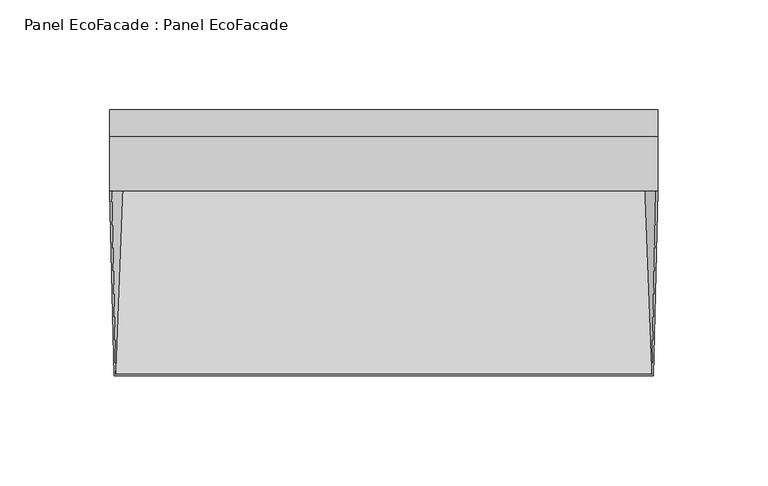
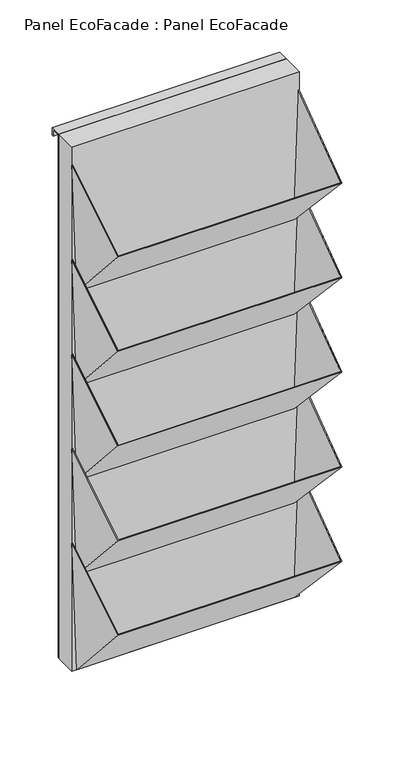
"""IFC4 building model written with IfcOpenShell, lengths in millimetres: plate geometry, Panel EcoFacade : Panel EcoFacade."""

import ifcopenshell
import ifcopenshell.guid

model = None  # the IFC model being written
_history = None  # IfcOwnerHistory: only IFC2X3 demands one
_inside = {}  # id of a spatial element -> (the spatial element, [elements in it])
_under = {}  # id of a project, library or spatial element -> (it, [spatial elements below it])
_declared = {}  # id of a project -> (the project, [libraries it declares])
_typed = {}  # id of a type object -> (the type object, [elements of that type])
_made_of = {}  # id of a material, layer set ... -> (it, [elements and type objects made of it])


def new_model(schema):
    """Start an empty IFC model of exactly this schema.

    Asked for "IFC4X3", IfcOpenShell would pick the latest addendum, in which some entities
    have other attributes; the version numbers below select the first issue.
    IFC2X3 requires an IfcOwnerHistory on every rooted entity: one is made here for all.
    """
    global model, _history
    if schema == "IFC4X3":
        model = ifcopenshell.file(schema_version=(4, 3, 0, 0))
    else:
        model = ifcopenshell.file(schema=schema)
    _inside.clear()
    _under.clear()
    _declared.clear()
    _typed.clear()
    _made_of.clear()
    _history = None
    if model.schema == "IFC2X3":
        org = make("IfcOrganization", Name="unknown")
        user = make(
            "IfcPersonAndOrganization",
            ThePerson=make("IfcPerson", FamilyName="unknown"),
            TheOrganization=org,
        )
        app = make(
            "IfcApplication",
            ApplicationDeveloper=org,
            Version="unknown",
            ApplicationFullName="unknown",
            ApplicationIdentifier="unknown",
        )
        _history = make(
            "IfcOwnerHistory",
            OwningUser=user,
            OwningApplication=app,
            ChangeAction="ADDED",
            CreationDate=0,
        )
    return model


def make(cls, **values):
    """One entity of the class cls with the attributes given. An attribute that is None is left unset."""
    return model.create_entity(
        cls, **{name: value for name, value in values.items() if value is not None}
    )


def rooted(cls, **values):
    """An entity with a GlobalId (a new one), such as an element, a storey or a relation."""
    return make(cls, GlobalId=ifcopenshell.guid.new(), OwnerHistory=_history, **values)


def si_unit(unit_type, name, prefix=None):
    """IfcSIUnit, for example si_unit("LENGTHUNIT", "METRE", prefix="MILLI")."""
    return make("IfcSIUnit", UnitType=unit_type, Prefix=prefix, Name=name)


def assignment(units):
    """IfcUnitAssignment: the units of a project."""
    return None if units is None else make("IfcUnitAssignment", Units=units)


def point(xyz):
    """IfcCartesianPoint."""
    return None if xyz is None else make("IfcCartesianPoint", Coordinates=xyz)


def direction(xyz):
    """IfcDirection."""
    return None if xyz is None else make("IfcDirection", DirectionRatios=xyz)


def frame(location, z_axis=None, x_axis=None):
    """IfcAxis2Placement3D, a coordinate frame: its origin and axes. An axis left out is left unset."""
    return make(
        "IfcAxis2Placement3D",
        Location=point(location),
        Axis=direction(z_axis),
        RefDirection=direction(x_axis),
    )


def origin():
    """The frame at (0, 0, 0) with its axes left unset."""
    return frame((0.0, 0.0, 0.0))


def origin_with_axes():
    """The frame at (0, 0, 0) with the z axis (0, 0, 1) and the x axis (1, 0, 0) written out."""
    return frame((0.0, 0.0, 0.0), z_axis=(0.0, 0.0, 1.0), x_axis=(1.0, 0.0, 0.0))


def place(relative_to, where):
    """IfcLocalPlacement: puts the frame where relative to a parent placement (None: the world)."""
    return make(
        "IfcLocalPlacement", PlacementRelTo=relative_to, RelativePlacement=where
    )


def context(
    kind, dimensions, precision=None, world=None, true_north=None, identifier=None
):
    """IfcGeometricRepresentationContext, for example the 3D "Model" context."""
    return make(
        "IfcGeometricRepresentationContext",
        ContextIdentifier=identifier,
        ContextType=kind,
        CoordinateSpaceDimension=dimensions,
        Precision=precision,
        WorldCoordinateSystem=world,
        TrueNorth=true_north,
    )


def project(units=None, contexts=None):
    """IfcProject with its units and contexts."""
    return rooted(
        "IfcProject",
        Name="project",
        RepresentationContexts=contexts,
        UnitsInContext=assignment(units),
    )


def spatial(cls, under=None, at=None, **own):
    """A site, building, storey or space (cls), placed at a placement, below another one or the project."""
    s = rooted(cls, ObjectPlacement=at, **own)
    if under is not None:
        _under.setdefault(under.id(), (under, []))[1].append(s)
    return s


def polyline(points):
    """IfcPolyline through the points."""
    return make("IfcPolyline", Points=[point(p) for p in points])


def outline(outer, holes=None, kind="AREA"):
    """IfcArbitraryClosedProfileDef: a profile drawn as a closed curve; with holes, ...WithVoids."""
    if holes is None:
        return make("IfcArbitraryClosedProfileDef", ProfileType=kind, OuterCurve=outer)
    return make(
        "IfcArbitraryProfileDefWithVoids",
        ProfileType=kind,
        OuterCurve=outer,
        InnerCurves=holes,
    )


def extrude(swept, where, along, depth):
    """IfcExtrudedAreaSolid: the profile swept, set in the frame where, extruded along a direction by depth."""
    return make(
        "IfcExtrudedAreaSolid",
        SweptArea=swept,
        Position=where,
        ExtrudedDirection=direction(along),
        Depth=depth,
    )


def faces_of(points, faces, orient=None, outer=None):
    """IfcFace entities. A face is a list of loops; a loop is a list of indices into points, from 0.

    orient and outer hold one flag for each loop. By default every Orientation is true, the
    first loop of a face is its IfcFaceOuterBound and the others are IfcFaceBound.
    """
    made = []
    for i, loops in enumerate(faces):
        bounds = []
        for j, loop in enumerate(loops):
            is_outer = j == 0 if outer is None else outer[i][j]
            bounds.append(
                make(
                    "IfcFaceOuterBound" if is_outer else "IfcFaceBound",
                    Bound=make("IfcPolyLoop", Polygon=[points[k] for k in loop]),
                    Orientation=True if orient is None else orient[i][j],
                )
            )
        made.append(make("IfcFace", Bounds=bounds))
    return made


def faceted_brep(points, faces, orient=None, outer=None, voids=None):
    """IfcFacetedBrep: a solid bounded by flat faces; with voids (closed shells), ...WithVoids."""
    shared = [point(p) for p in points]
    hull = make("IfcClosedShell", CfsFaces=faces_of(shared, faces, orient, outer))
    if voids is None:
        return make("IfcFacetedBrep", Outer=hull)
    return make(
        "IfcFacetedBrepWithVoids",
        Outer=hull,
        Voids=[
            make(cls, CfsFaces=faces_of(shared, fs, o, b)) for cls, fs, o, b in voids
        ],
    )


def shape(context_of_items, identifier, shape_type, items):
    """IfcShapeRepresentation: the items that make up one representation, for example the "Body"."""
    return make(
        "IfcShapeRepresentation",
        ContextOfItems=context_of_items,
        RepresentationIdentifier=identifier,
        RepresentationType=shape_type,
        Items=items,
    )


def source(mapping_origin, context_of_items, identifier, shape_type, items):
    """IfcRepresentationMap: a shape defined once, which mapped items show again and again."""
    return make(
        "IfcRepresentationMap",
        MappingOrigin=mapping_origin,
        MappedRepresentation=shape(context_of_items, identifier, shape_type, items),
    )


def transform(
    local_origin,
    x_axis=None,
    y_axis=None,
    z_axis=None,
    scale=None,
    scale2=None,
    scale3=None,
    uniform=True,
):
    """IfcCartesianTransformationOperator3D, or its non-uniform kind. x_axis, y_axis, z_axis: its Axis1, 2, 3."""
    if uniform:
        return make(
            "IfcCartesianTransformationOperator3D",
            Axis1=direction(x_axis),
            Axis2=direction(y_axis),
            LocalOrigin=point(local_origin),
            Scale=scale,
            Axis3=direction(z_axis),
        )
    return make(
        "IfcCartesianTransformationOperator3DnonUniform",
        Axis1=direction(x_axis),
        Axis2=direction(y_axis),
        LocalOrigin=point(local_origin),
        Scale=scale,
        Axis3=direction(z_axis),
        Scale2=scale2,
        Scale3=scale3,
    )


def mapped(mapping_source, mapping_target):
    """IfcMappedItem: shows the shape of a source again, moved by a transform."""
    return make(
        "IfcMappedItem", MappingSource=mapping_source, MappingTarget=mapping_target
    )


def made_of(thing, what):
    """Note that an element or type object is made of a material, layer set ...; save() writes the relation."""
    if what is not None:
        _made_of.setdefault(what.id(), (what, []))[1].append(thing)
    return thing


def element(
    cls,
    number,
    at=None,
    inside=None,
    cuts=None,
    type_object=None,
    material=None,
    context=None,
    identifier="Body",
    shape_type=None,
    held_by="IfcProductDefinitionShape",
    body=None,
    shapes=None,
    **own,
):
    """One element of the class cls, such as IfcWall. Its Tag is "e" and its number.

    at: its placement. inside: the storey or other place that contains it. cuts: it is an
    opening in that element (IfcRelVoidsElement). A single representation is given by context,
    identifier, shape_type and body (its items); several are given by shapes. held_by: the class
    of the entity that holds the representations. save() writes the other relations.
    """
    e = rooted(cls, Tag="e%d" % number, ObjectPlacement=at, **own)
    if body is not None:
        shapes = [shape(context, identifier, shape_type, body)]
    if shapes is not None:
        e.Representation = make(held_by, Representations=shapes)
    if inside is not None:
        _inside.setdefault(inside.id(), (inside, []))[1].append(e)
    if cuts is not None:
        rooted(
            "IfcRelVoidsElement", RelatingBuildingElement=cuts, RelatedOpeningElement=e
        )
    if type_object is not None:
        _typed.setdefault(type_object.id(), (type_object, []))[1].append(e)
    return made_of(e, material)


def aggregate(whole, parts):
    """IfcRelAggregates: a whole, such as a stair, and the parts it consists of."""
    return rooted("IfcRelAggregates", RelatingObject=whole, RelatedObjects=parts)


def save(model, path):
    """Write the relations noted so far, then the file.

    IfcRelAggregates (storeys below a building ...), IfcRelContainedInSpatialStructure (elements
    in a storey), IfcRelDefinesByType, IfcRelAssociatesMaterial and IfcRelDeclares: one each for
    every whole, place, type object, material and project.
    """
    for whole, parts in _under.values():
        aggregate(whole, parts)
    for where, things in _inside.values():
        rooted(
            "IfcRelContainedInSpatialStructure",
            RelatedElements=things,
            RelatingStructure=where,
        )
    for kind, things in _typed.values():
        rooted("IfcRelDefinesByType", RelatedObjects=things, RelatingType=kind)
    for what, things in _made_of.values():
        rooted("IfcRelAssociatesMaterial", RelatedObjects=things, RelatingMaterial=what)
    for by, libraries in _declared.values():
        rooted("IfcRelDeclares", RelatingContext=by, RelatedDefinitions=libraries)
    model.write(path)


def panel_ecofacade_panel_ecofacade_b6755e2b(model_context):
    return source(origin(), model_context, "Body", "SolidModel", [
        faceted_brep([(-124.180785, 0.0, 588.5882353), (-119.0333837, 0.0, 441.185948), (119.0333837, 0.0, 441.185948), (124.180785, 0.0, 588.5882353), (124.9812727, 0.0, 588.5882353), (119.7924572, 0.0, 440.0), (-119.7924572, 0.0, 440.0), (-124.9812727, 0.0, 588.5882353), (-123.0102218, -84.2, 532.1447224), (-122.225466, -83.5279628, 532.5952229), (123.0102218, -84.2, 532.1447224), (122.225466, -83.5279628, 532.5952229)], [[[0, 1, 2, 3, 4, 5, 6, 7]], [[6, 8, 7]], [[1, 0, 9]], [[0, 7, 8, 10, 4, 3, 11, 9]], [[5, 10, 8, 6]], [[1, 9, 11, 2]], [[4, 10, 5]], [[3, 2, 11]]]),
        faceted_brep([(-124.180785, 0.0, 478.5882353), (-119.0333837, 0.0, 331.185948), (119.0333837, 0.0, 331.185948), (124.180785, 0.0, 478.5882353), (124.9812727, 0.0, 478.5882353), (119.7924572, 0.0, 330.0), (-119.7924572, 0.0, 330.0), (-124.9812727, 0.0, 478.5882353), (-123.0102218, -84.2, 422.1447224), (-122.225466, -83.5279628, 422.5952229), (123.0102218, -84.2, 422.1447224), (122.225466, -83.5279628, 422.5952229)], [[[0, 1, 2, 3, 4, 5, 6, 7]], [[6, 8, 7]], [[1, 0, 9]], [[0, 7, 8, 10, 4, 3, 11, 9]], [[5, 10, 8, 6]], [[1, 9, 11, 2]], [[4, 10, 5]], [[3, 2, 11]]]),
        faceted_brep([(-124.180785, 0.0, 368.5882353), (-119.0333837, 0.0, 221.185948), (119.0333837, 0.0, 221.185948), (124.180785, 0.0, 368.5882353), (124.9812727, 0.0, 368.5882353), (119.7924572, 0.0, 220.0), (-119.7924572, 0.0, 220.0), (-124.9812727, 0.0, 368.5882353), (-123.0102218, -84.2, 312.1447224), (-122.225466, -83.5279628, 312.5952229), (123.0102218, -84.2, 312.1447224), (122.225466, -83.5279628, 312.5952229)], [[[0, 1, 2, 3, 4, 5, 6, 7]], [[6, 8, 7]], [[1, 0, 9]], [[0, 7, 8, 10, 4, 3, 11, 9]], [[5, 10, 8, 6]], [[1, 9, 11, 2]], [[4, 10, 5]], [[3, 2, 11]]]),
        faceted_brep([(-124.180785, 0.0, 258.5882353), (-119.0333837, 0.0, 111.185948), (119.0333837, 0.0, 111.185948), (124.180785, 0.0, 258.5882353), (124.9812727, 0.0, 258.5882353), (119.7924572, 0.0, 110.0), (-119.7924572, 0.0, 110.0), (-124.9812727, 0.0, 258.5882353), (-123.0102218, -84.2, 202.1447224), (-122.225466, -83.5279628, 202.5952229), (123.0102218, -84.2, 202.1447224), (122.225466, -83.5279628, 202.5952229)], [[[0, 1, 2, 3, 4, 5, 6, 7]], [[6, 8, 7]], [[1, 0, 9]], [[0, 7, 8, 10, 4, 3, 11, 9]], [[5, 10, 8, 6]], [[1, 9, 11, 2]], [[4, 10, 5]], [[3, 2, 11]]]),
        faceted_brep([(-124.180785, 0.0, 148.5882353), (-119.0333837, 0.0, 1.185948), (119.0333837, 0.0, 1.185948), (124.180785, 0.0, 148.5882353), (124.9812727, 0.0, 148.5882353), (119.7924572, 0.0, 0.0), (-119.7924572, 0.0, 0.0), (-124.9812727, 0.0, 148.5882353), (-123.0102218, -84.2, 92.1447224), (-122.225466, -83.5279628, 92.5952229), (123.0102218, -84.2, 92.1447224), (122.225466, -83.5279628, 92.5952229)], [[[0, 1, 2, 3, 4, 5, 6, 7]], [[6, 8, 7]], [[1, 0, 9]], [[0, 7, 8, 10, 4, 3, 11, 9]], [[5, 10, 8, 6]], [[1, 9, 11, 2]], [[4, 10, 5]], [[3, 2, 11]]]),
        extrude(outline(polyline([(26.5, 0.0), (25.0, 0.0), (25.0, 610.0), (37.0, 610.0), (37.0, 601.0), (35.5, 601.0), (35.5, 608.5), (26.5, 608.5), (26.5, 0.0)])), frame((-125.0000001, 0.0, 0.0), z_axis=(1.0, 0.0, 0.0), x_axis=(0.0, 1.0, 0.0)), (0.0, 0.0, 1.0), 250.0),
        extrude(outline(polyline([(125.0, 25.0), (125.0, 0.0), (-125.0, 0.0), (-125.0, 25.0), (125.0, 25.0)])), origin_with_axes(), (0.0, 0.0, 1.0), 610.0),
    ])


if __name__ == "__main__":
    model = new_model("IFC4")
    model_context = context("Model", 3, world=origin())
    ifc_project = project(units=[si_unit("LENGTHUNIT", "METRE", prefix="MILLI")], contexts=[model_context])
    site = spatial("IfcSite", under=ifc_project)
    building = spatial("IfcBuilding", under=site)
    placement = place(None, origin())
    panel_ecofacade_panel_ecofacade_shape = panel_ecofacade_panel_ecofacade_b6755e2b(model_context)
    element("IfcPlate", 1, ObjectType="Panel EcoFacade : Panel EcoFacade", at=placement, inside=building, context=model_context, shape_type="MappedRepresentation", body=[
        mapped(panel_ecofacade_panel_ecofacade_shape, transform((0.0, 0.0, 0.0), x_axis=(1.0, 0.0, 0.0), y_axis=(0.0, 1.0, 0.0), z_axis=(0.0, 0.0, 1.0))),
    ])
    save(model, "model.ifc")
